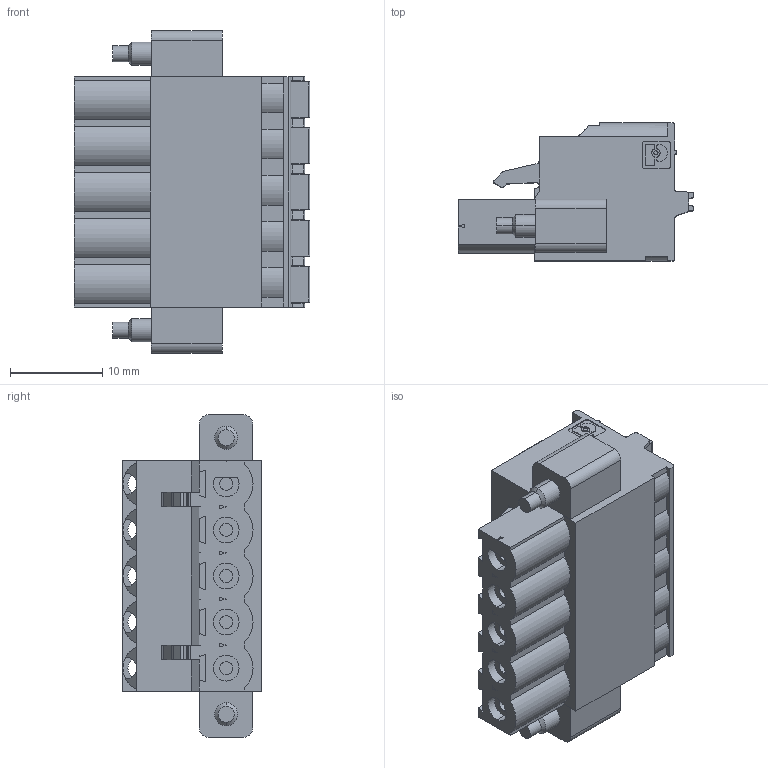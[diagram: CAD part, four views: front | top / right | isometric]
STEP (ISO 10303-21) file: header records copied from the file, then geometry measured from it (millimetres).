
FILE_DESCRIPTION (( 'STEP AP203' ), '1' );
FILE_NAME ('SRZP-03_web.STEP', '2020-04-03T00:35:33', ( '' ), ( '' ), 'SwSTEP 2.0', 'SolidWorks 2018', '' );
FILE_SCHEMA (( 'CONFIG_CONTROL_DESIGN' ));
Length unit declared in the file: millimetre
Products named in the file (1): SRZP-03_web
Bounding box: 25.6 x 15 x 35 mm (x, y, z)
Volume: 6314.9 mm3; surface area: 3973.3 mm2
Topology: 1 solids, 1 shells, 552 faces, 1433 edges, 919 vertices
Faces by surface type: plane 337, cylinder 175, cone 24, bspline 16
Entity records: 17324 total; most frequent: CARTESIAN_POINT 3662, ORIENTED_EDGE 2866, DIRECTION 2817, EDGE_CURVE 1433, AXIS2_PLACEMENT_3D 946, VECTOR 925, LINE 925, VERTEX_POINT 919
